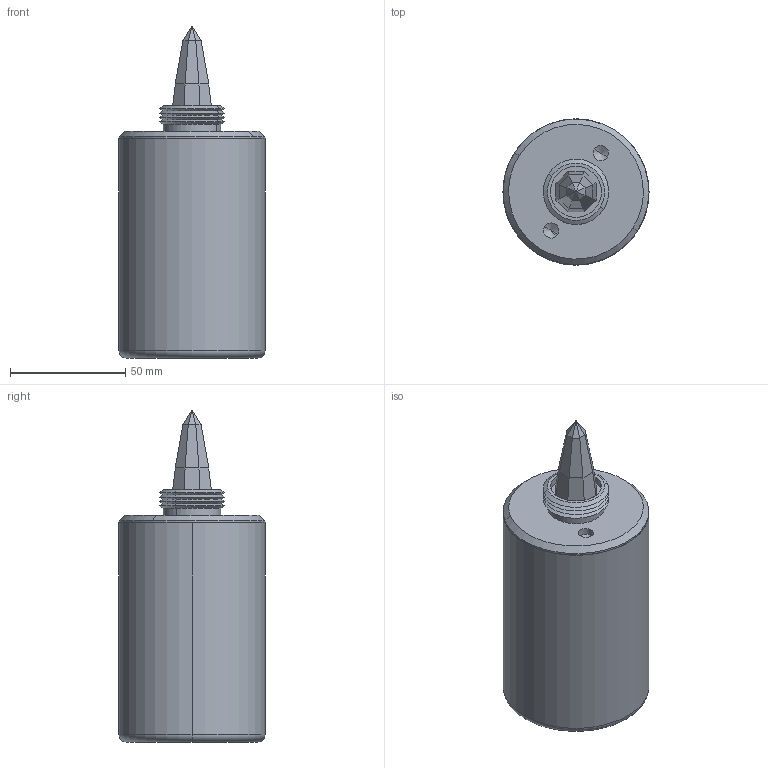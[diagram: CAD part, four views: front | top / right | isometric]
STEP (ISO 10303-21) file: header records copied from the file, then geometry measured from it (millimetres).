
FILE_DESCRIPTION (( 'STEP AP203' ), '1' );
FILE_NAME ('SP-004F.STEP', '2008-08-12T07:20:03', ( 'ANDREW' ), ( 'SIMONDS INC' ), 'SwSTEP 2.0', 'SolidWorks 2008', '' );
FILE_SCHEMA (( 'CONFIG_CONTROL_DESIGN' ));
Length unit declared in the file: inch
Products named in the file (4): 14-004; 1-004F; SP-004F; 25-H
Assembly tree (3 placements, depth 2):
  SP-004F
    25-H
    1-004F
    14-004
Bounding box: 63.5 x 63.5 x 144.25 mm (x, y, z)
Volume: 175754 mm3; surface area: 50693.3 mm2
Topology: 3 solids, 3 shells, 128 faces, 272 edges, 158 vertices
Faces by surface type: plane 50, cone 44, cylinder 32, torus 2
Entity records: 3788 total; most frequent: DIRECTION 642, CARTESIAN_POINT 560, ORIENTED_EDGE 536, EDGE_CURVE 268, AXIS2_PLACEMENT_3D 240, VECTOR 162, LINE 162, VERTEX_POINT 158
